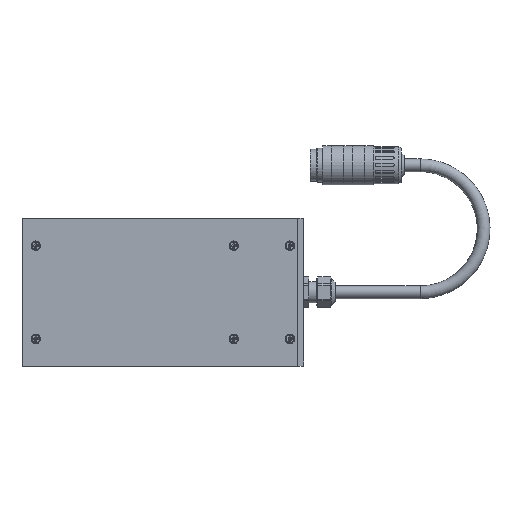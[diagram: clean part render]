
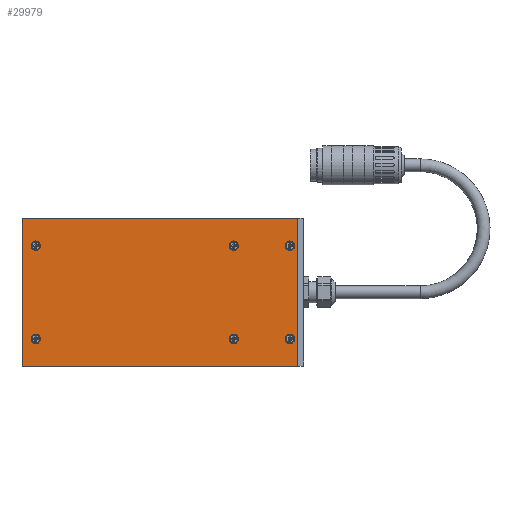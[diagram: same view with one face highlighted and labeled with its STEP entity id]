
A CAD part, left-side view. The second image highlights one B-rep face of the part: STEP entity #29979.
In plain terms, the highlighted planar face has unit normal (-1, 0, 0).
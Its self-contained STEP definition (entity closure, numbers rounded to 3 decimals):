
#1696=LINE('',#42703,#3482);
#1706=LINE('',#42724,#3492);
#1709=LINE('',#42742,#3495);
#1710=LINE('',#42744,#3496);
#3482=VECTOR('',#35760,1000.);
#3492=VECTOR('',#35772,1000.);
#3495=VECTOR('',#35791,1000.);
#3496=VECTOR('',#35792,1000.);
#6937=ORIENTED_EDGE('',*,*,#11900,.T.);
#6938=ORIENTED_EDGE('',*,*,#11909,.T.);
#6939=ORIENTED_EDGE('',*,*,#11910,.T.);
#6940=ORIENTED_EDGE('',*,*,#11890,.T.);
#6941=ORIENTED_EDGE('',*,*,#11911,.T.);
#6942=ORIENTED_EDGE('',*,*,#11912,.T.);
#6943=ORIENTED_EDGE('',*,*,#11913,.T.);
#6944=ORIENTED_EDGE('',*,*,#11914,.T.);
#6945=ORIENTED_EDGE('',*,*,#11915,.T.);
#6946=ORIENTED_EDGE('',*,*,#11916,.T.);
#11890=EDGE_CURVE('',#14612,#14613,#1696,.T.);
#11900=EDGE_CURVE('',#14613,#14621,#1706,.T.);
#11909=EDGE_CURVE('',#14621,#14629,#1709,.T.);
#11910=EDGE_CURVE('',#14629,#14612,#1710,.T.);
#11911=EDGE_CURVE('',#14630,#14630,#16298,.T.);
#11912=EDGE_CURVE('',#14631,#14631,#16299,.T.);
#11913=EDGE_CURVE('',#14632,#14632,#16300,.T.);
#11914=EDGE_CURVE('',#14633,#14633,#16301,.T.);
#11915=EDGE_CURVE('',#14634,#14634,#16302,.T.);
#11916=EDGE_CURVE('',#14635,#14635,#16303,.T.);
#14612=VERTEX_POINT('',#42704);
#14613=VERTEX_POINT('',#42705);
#14621=VERTEX_POINT('',#42723);
#14629=VERTEX_POINT('',#42743);
#14630=VERTEX_POINT('',#42746);
#14631=VERTEX_POINT('',#42748);
#14632=VERTEX_POINT('',#42750);
#14633=VERTEX_POINT('',#42752);
#14634=VERTEX_POINT('',#42754);
#14635=VERTEX_POINT('',#42756);
#16298=CIRCLE('',#31744,2.25);
#16299=CIRCLE('',#31745,2.25);
#16300=CIRCLE('',#31746,2.25);
#16301=CIRCLE('',#31747,2.25);
#16302=CIRCLE('',#31748,2.25);
#16303=CIRCLE('',#31749,2.25);
#17570=EDGE_LOOP('',(#6937,#6938,#6939,#6940));
#17571=EDGE_LOOP('',(#6941));
#17572=EDGE_LOOP('',(#6942));
#17573=EDGE_LOOP('',(#6943));
#17574=EDGE_LOOP('',(#6944));
#17575=EDGE_LOOP('',(#6945));
#17576=EDGE_LOOP('',(#6946));
#19336=FACE_BOUND('',#17570,.T.);
#19337=FACE_BOUND('',#17571,.T.);
#19338=FACE_BOUND('',#17572,.T.);
#19339=FACE_BOUND('',#17573,.T.);
#19340=FACE_BOUND('',#17574,.T.);
#19341=FACE_BOUND('',#17575,.T.);
#19342=FACE_BOUND('',#17576,.T.);
#20732=PLANE('',#31743);
#29979=ADVANCED_FACE('',(#19336,#19337,#19338,#19339,#19340,#19341,#19342),
#20732,.F.);
#31743=AXIS2_PLACEMENT_3D('',#42741,#35789,#35790);
#31744=AXIS2_PLACEMENT_3D('',#42745,#35793,#35794);
#31745=AXIS2_PLACEMENT_3D('',#42747,#35795,#35796);
#31746=AXIS2_PLACEMENT_3D('',#42749,#35797,#35798);
#31747=AXIS2_PLACEMENT_3D('',#42751,#35799,#35800);
#31748=AXIS2_PLACEMENT_3D('',#42753,#35801,#35802);
#31749=AXIS2_PLACEMENT_3D('',#42755,#35803,#35804);
#35760=DIRECTION('',(0.,0.,1.));
#35772=DIRECTION('',(0.,1.,0.));
#35789=DIRECTION('',(1.,0.,0.));
#35790=DIRECTION('',(0.,-1.,0.));
#35791=DIRECTION('',(0.,0.,-1.));
#35792=DIRECTION('',(0.,-1.,0.));
#35793=DIRECTION('',(1.,0.,0.));
#35794=DIRECTION('',(0.,0.,1.));
#35795=DIRECTION('',(1.,0.,0.));
#35796=DIRECTION('',(0.,0.,1.));
#35797=DIRECTION('',(1.,0.,0.));
#35798=DIRECTION('',(0.,0.,1.));
#35799=DIRECTION('',(1.,0.,0.));
#35800=DIRECTION('',(0.,0.,1.));
#35801=DIRECTION('',(1.,0.,0.));
#35802=DIRECTION('',(0.,0.,1.));
#35803=DIRECTION('',(1.,0.,0.));
#35804=DIRECTION('',(0.,0.,1.));
#42703=CARTESIAN_POINT('',(-33.5,-86.5,66.9));
#42704=CARTESIAN_POINT('',(-33.5,-86.5,-1.1));
#42705=CARTESIAN_POINT('',(-33.5,-86.5,68.9));
#42723=CARTESIAN_POINT('',(-33.5,43.5,68.9));
#42724=CARTESIAN_POINT('',(-33.5,-86.5,68.9));
#42741=CARTESIAN_POINT('',(-33.5,-86.5,66.9));
#42742=CARTESIAN_POINT('',(-33.5,43.5,68.9));
#42743=CARTESIAN_POINT('',(-33.5,43.5,-1.1));
#42744=CARTESIAN_POINT('',(-33.5,40.5,-1.1));
#42745=CARTESIAN_POINT('',(-33.5,-83.,55.9));
#42746=CARTESIAN_POINT('',(-33.5,-83.,58.15));
#42747=CARTESIAN_POINT('',(-33.5,37.,11.9));
#42748=CARTESIAN_POINT('',(-33.5,37.,14.15));
#42749=CARTESIAN_POINT('',(-33.5,37.,55.9));
#42750=CARTESIAN_POINT('',(-33.5,37.,58.15));
#42751=CARTESIAN_POINT('',(-33.5,-56.5,11.9));
#42752=CARTESIAN_POINT('',(-33.5,-56.5,14.15));
#42753=CARTESIAN_POINT('',(-33.5,-56.5,55.9));
#42754=CARTESIAN_POINT('',(-33.5,-56.5,58.15));
#42755=CARTESIAN_POINT('',(-33.5,-83.,11.9));
#42756=CARTESIAN_POINT('',(-33.5,-83.,14.15));
